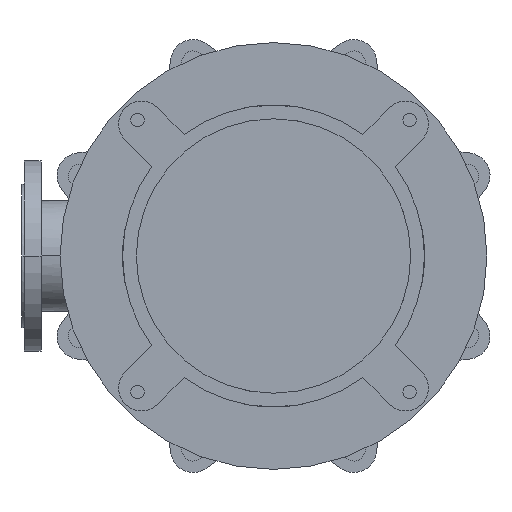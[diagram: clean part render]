
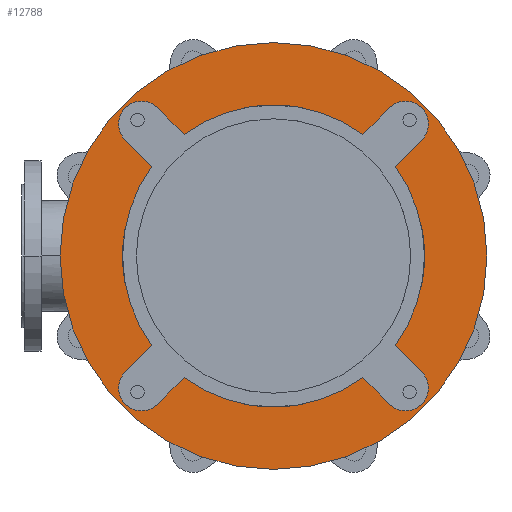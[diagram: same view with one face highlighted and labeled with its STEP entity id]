
A CAD part, front view. The second image highlights one B-rep face of the part: STEP entity #12788.
In plain terms, the highlighted planar face has unit normal (0, -1, 0).
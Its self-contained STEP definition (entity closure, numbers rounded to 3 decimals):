
#2480=CARTESIAN_POINT('',(0.,-25.,0.));
#2481=DIRECTION('',(0.,1.,0.));
#2482=DIRECTION('',(0.592,0.,-0.806));
#2483=AXIS2_PLACEMENT_3D('',#2480,#2481,#2482);
#2498=CARTESIAN_POINT('',(0.,-25.,0.));
#2499=DIRECTION('',(0.,1.,0.));
#2500=DIRECTION('',(0.806,0.,0.592));
#2501=AXIS2_PLACEMENT_3D('',#2498,#2499,#2500);
#2525=CARTESIAN_POINT('',(0.,-25.,0.));
#2526=DIRECTION('',(0.,1.,0.));
#2527=DIRECTION('',(-0.806,0.,-0.592));
#2528=AXIS2_PLACEMENT_3D('',#2525,#2526,#2527);
#2534=CARTESIAN_POINT('',(0.,-25.,0.));
#2535=DIRECTION('',(0.,1.,0.));
#2536=DIRECTION('',(-0.592,0.,0.806));
#2537=AXIS2_PLACEMENT_3D('',#2534,#2535,#2536);
#2712=CARTESIAN_POINT('',(0.,-25.,0.));
#2713=DIRECTION('',(0.,-1.,0.));
#2714=DIRECTION('',(-1.,0.,0.));
#2715=AXIS2_PLACEMENT_3D('',#2712,#2713,#2714);
#2717=CARTESIAN_POINT('',(0.,-25.,0.));
#2718=DIRECTION('',(0.,1.,0.));
#2719=DIRECTION('',(-1.,0.,0.));
#2720=AXIS2_PLACEMENT_3D('',#2717,#2718,#2719);
#2722=CARTESIAN_POINT('',(-173.241,-25.,173.241));
#2723=DIRECTION('',(0.,-1.,0.));
#2724=DIRECTION('',(0.707,0.,0.707));
#2725=AXIS2_PLACEMENT_3D('',#2722,#2723,#2724);
#2727=DIRECTION('',(0.707,0.,-0.707));
#2728=VECTOR('',#2727,49.286);
#2729=CARTESIAN_POINT('',(-194.454,-25.,152.028));
#2730=LINE('',#2729,#2728);
#2731=DIRECTION('',(-0.707,0.,-0.707));
#2732=VECTOR('',#2731,49.286);
#2733=CARTESIAN_POINT('',(-159.604,-25.,-117.178));
#2734=LINE('',#2733,#2732);
#2735=CARTESIAN_POINT('',(-173.241,-25.,-173.241));
#2736=DIRECTION('',(0.,-1.,0.));
#2737=DIRECTION('',(-0.707,0.,0.707));
#2738=AXIS2_PLACEMENT_3D('',#2735,#2736,#2737);
#2740=DIRECTION('',(0.707,0.,0.707));
#2741=VECTOR('',#2740,49.286);
#2742=CARTESIAN_POINT('',(-152.028,-25.,-194.454));
#2743=LINE('',#2742,#2741);
#2744=DIRECTION('',(0.707,0.,-0.707));
#2745=VECTOR('',#2744,49.286);
#2746=CARTESIAN_POINT('',(117.178,-25.,-159.604));
#2747=LINE('',#2746,#2745);
#2748=CARTESIAN_POINT('',(173.241,-25.,-173.241));
#2749=DIRECTION('',(0.,-1.,0.));
#2750=DIRECTION('',(-0.707,0.,-0.707));
#2751=AXIS2_PLACEMENT_3D('',#2748,#2749,#2750);
#2753=DIRECTION('',(-0.707,0.,0.707));
#2754=VECTOR('',#2753,49.286);
#2755=CARTESIAN_POINT('',(194.454,-25.,-152.028));
#2756=LINE('',#2755,#2754);
#2757=DIRECTION('',(0.707,0.,0.707));
#2758=VECTOR('',#2757,49.286);
#2759=CARTESIAN_POINT('',(159.604,-25.,117.178));
#2760=LINE('',#2759,#2758);
#2761=CARTESIAN_POINT('',(173.241,-25.,173.241));
#2762=DIRECTION('',(0.,-1.,0.));
#2763=DIRECTION('',(0.707,0.,-0.707));
#2764=AXIS2_PLACEMENT_3D('',#2761,#2762,#2763);
#2766=DIRECTION('',(-0.707,0.,-0.707));
#2767=VECTOR('',#2766,49.286);
#2768=CARTESIAN_POINT('',(152.028,-25.,194.454));
#2769=LINE('',#2768,#2767);
#2770=DIRECTION('',(-0.707,0.,0.707));
#2771=VECTOR('',#2770,49.286);
#2772=CARTESIAN_POINT('',(-117.178,-25.,159.604));
#2773=LINE('',#2772,#2771);
#8315=CARTESIAN_POINT('',(-280.,-25.,0.));
#8316=CARTESIAN_POINT('',(280.,-25.,0.));
#8317=VERTEX_POINT('',#8315);
#8318=VERTEX_POINT('',#8316);
#8339=CARTESIAN_POINT('',(-194.454,-25.,-152.028));
#8340=CARTESIAN_POINT('',(-152.028,-25.,-194.454));
#8341=VERTEX_POINT('',#8339);
#8342=VERTEX_POINT('',#8340);
#8343=CARTESIAN_POINT('',(-117.178,-25.,-159.604));
#8344=VERTEX_POINT('',#8343);
#8345=CARTESIAN_POINT('',(-159.604,-25.,-117.178));
#8346=VERTEX_POINT('',#8345);
#8355=CARTESIAN_POINT('',(152.028,-25.,-194.454));
#8356=CARTESIAN_POINT('',(194.454,-25.,-152.028));
#8357=VERTEX_POINT('',#8355);
#8358=VERTEX_POINT('',#8356);
#8359=CARTESIAN_POINT('',(159.604,-25.,-117.178));
#8360=VERTEX_POINT('',#8359);
#8361=CARTESIAN_POINT('',(117.178,-25.,-159.604));
#8362=VERTEX_POINT('',#8361);
#8371=CARTESIAN_POINT('',(194.454,-25.,152.028));
#8372=CARTESIAN_POINT('',(152.028,-25.,194.454));
#8373=VERTEX_POINT('',#8371);
#8374=VERTEX_POINT('',#8372);
#8375=CARTESIAN_POINT('',(117.178,-25.,159.604));
#8376=VERTEX_POINT('',#8375);
#8377=CARTESIAN_POINT('',(159.604,-25.,117.178));
#8378=VERTEX_POINT('',#8377);
#8387=CARTESIAN_POINT('',(-152.028,-25.,194.454));
#8388=CARTESIAN_POINT('',(-194.454,-25.,152.028));
#8389=VERTEX_POINT('',#8387);
#8390=VERTEX_POINT('',#8388);
#8391=CARTESIAN_POINT('',(-159.604,-25.,117.178));
#8392=VERTEX_POINT('',#8391);
#8393=CARTESIAN_POINT('',(-117.178,-25.,159.604));
#8394=VERTEX_POINT('',#8393);
#12748=CARTESIAN_POINT('',(0.,-25.,0.));
#12749=DIRECTION('',(0.,-1.,0.));
#12750=DIRECTION('',(-1.,0.,0.));
#12751=AXIS2_PLACEMENT_3D('',#12748,#12749,#12750);
#12752=PLANE('',#12751);
#12754=ORIENTED_EDGE('',*,*,#12753,.F.);
#12756=ORIENTED_EDGE('',*,*,#12755,.T.);
#12757=EDGE_LOOP('',(#12754,#12756));
#12758=FACE_OUTER_BOUND('',#12757,.F.);
#12760=ORIENTED_EDGE('',*,*,#12759,.T.);
#12762=ORIENTED_EDGE('',*,*,#12761,.T.);
#12763=ORIENTED_EDGE('',*,*,#12701,.F.);
#12765=ORIENTED_EDGE('',*,*,#12764,.T.);
#12767=ORIENTED_EDGE('',*,*,#12766,.T.);
#12769=ORIENTED_EDGE('',*,*,#12768,.T.);
#12770=ORIENTED_EDGE('',*,*,#12654,.F.);
#12771=ORIENTED_EDGE('',*,*,#12738,.T.);
#12773=ORIENTED_EDGE('',*,*,#12772,.T.);
#12775=ORIENTED_EDGE('',*,*,#12774,.T.);
#12776=ORIENTED_EDGE('',*,*,#12675,.F.);
#12778=ORIENTED_EDGE('',*,*,#12777,.T.);
#12780=ORIENTED_EDGE('',*,*,#12779,.T.);
#12782=ORIENTED_EDGE('',*,*,#12781,.T.);
#12783=ORIENTED_EDGE('',*,*,#12719,.F.);
#12785=ORIENTED_EDGE('',*,*,#12784,.T.);
#12786=EDGE_LOOP('',(#12760,#12762,#12763,#12765,#12767,#12769,#12770,#12771,
#12773,#12775,#12776,#12778,#12780,#12782,#12783,#12785));
#12787=FACE_BOUND('',#12786,.F.);
#12788=ADVANCED_FACE('',(#12758,#12787),#12752,.T.);
#2484=CIRCLE('',#2483,198.);
#2502=CIRCLE('',#2501,198.);
#2529=CIRCLE('',#2528,198.);
#2538=CIRCLE('',#2537,198.);
#2716=CIRCLE('',#2715,280.);
#2721=CIRCLE('',#2720,280.);
#2726=CIRCLE('',#2725,30.);
#2739=CIRCLE('',#2738,30.);
#2752=CIRCLE('',#2751,30.);
#2765=CIRCLE('',#2764,30.);
#12654=EDGE_CURVE('',#8362,#8344,#2484,.T.);
#12675=EDGE_CURVE('',#8378,#8360,#2502,.T.);
#12701=EDGE_CURVE('',#8346,#8392,#2529,.T.);
#12719=EDGE_CURVE('',#8394,#8376,#2538,.T.);
#12738=EDGE_CURVE('',#8362,#8357,#2747,.T.);
#12753=EDGE_CURVE('',#8317,#8318,#2716,.T.);
#12755=EDGE_CURVE('',#8317,#8318,#2721,.T.);
#12759=EDGE_CURVE('',#8389,#8390,#2726,.T.);
#12761=EDGE_CURVE('',#8390,#8392,#2730,.T.);
#12764=EDGE_CURVE('',#8346,#8341,#2734,.T.);
#12766=EDGE_CURVE('',#8341,#8342,#2739,.T.);
#12768=EDGE_CURVE('',#8342,#8344,#2743,.T.);
#12772=EDGE_CURVE('',#8357,#8358,#2752,.T.);
#12774=EDGE_CURVE('',#8358,#8360,#2756,.T.);
#12777=EDGE_CURVE('',#8378,#8373,#2760,.T.);
#12779=EDGE_CURVE('',#8373,#8374,#2765,.T.);
#12781=EDGE_CURVE('',#8374,#8376,#2769,.T.);
#12784=EDGE_CURVE('',#8394,#8389,#2773,.T.);
